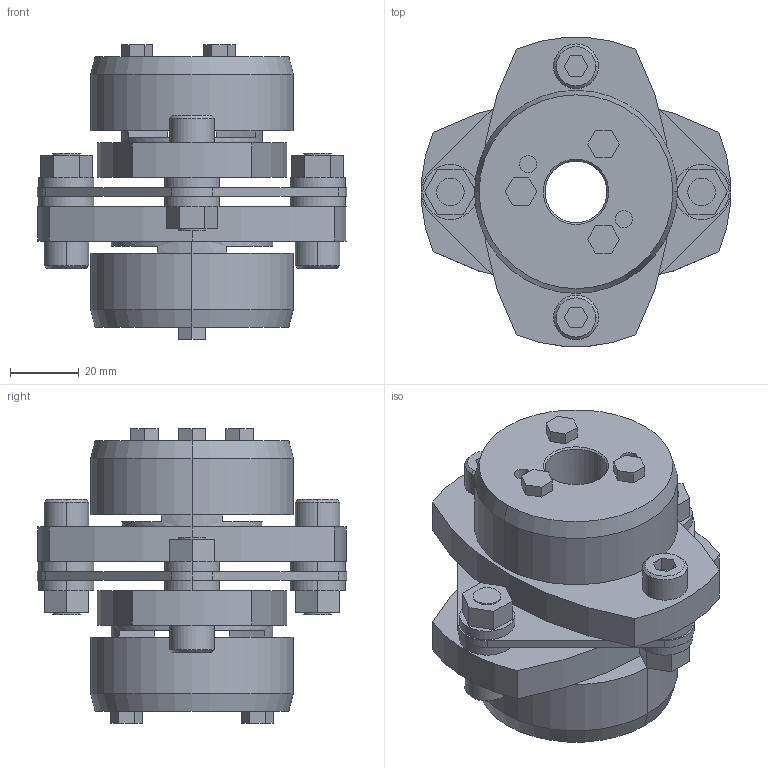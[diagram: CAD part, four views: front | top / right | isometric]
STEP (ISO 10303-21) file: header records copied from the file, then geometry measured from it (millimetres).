
FILE_DESCRIPTION((''),'2;1');
FILE_NAME('LCS-90T7-18×25.stp','2015-11-01T20:13:09',(''),(''),'AutoCAD STEP 2000i','AutoCAD 2000i',', , ');
FILE_SCHEMA(('CONFIG_CONTROL_DESIGN'));
Length unit declared in the file: millimetre
Products named in the file (8): LCS-90T7-19×25; 忣兜1; LC90T7-T025; LC90T7-T019-1; LC90T7-T019; LC90-B019-1; LC90-B019; LCS90-ITA
Assembly tree (7 placements, depth 2):
  LCS-90T7-19×25
    忣兜1
    LC90T7-T025
    LC90T7-T019-1
    LC90T7-T019
    LC90-B019-1
    LC90-B019
    LCS90-ITA
Bounding box: 90 x 89.94 x 85.5 mm (x, y, z)
Volume: 203248.8 mm3; surface area: 52155.6 mm2
Topology: 1 solids, 1 shells, 225 faces, 550 edges, 360 vertices
Faces by surface type: plane 125, cylinder 80, cone 20
Entity records: 6869 total; most frequent: DIRECTION 1212, CARTESIAN_POINT 1143, ORIENTED_EDGE 1100, EDGE_CURVE 550, AXIS2_PLACEMENT_3D 429, VERTEX_POINT 360, VECTOR 354, LINE 354
